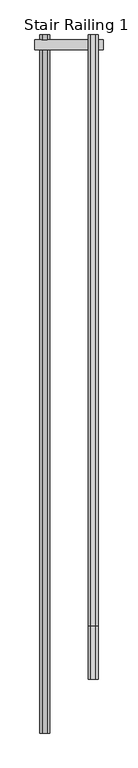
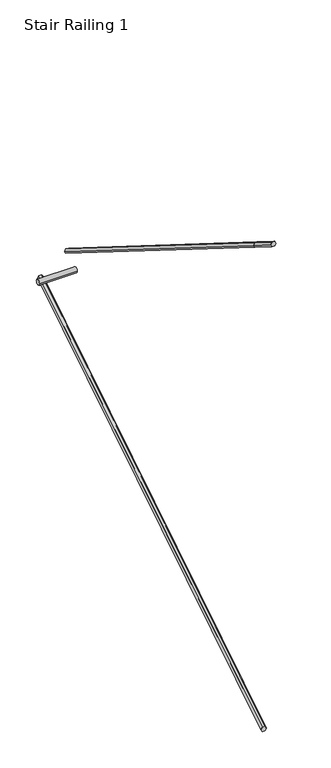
"""IFC4 building model written with IfcOpenShell, lengths in millimetres: railing geometry, Stair Railing 1."""

from ifc_helpers import new_model, si_unit, frame, origin, place, context, project, spatial, circle_curve, faceted_brep, source, transform, mapped, element, save
from ifc_brep_helpers import plane_surface, cylinder_surface, advanced_brep


def stair_railing_1_335de554(model_context):
    return source(origin(), model_context, "Body", "SolidModel", [
        faceted_brep([(-1415.3134126, 56357.2066802, 13752.6888889), (-1428.0134126, 56357.2066802, 13730.6918436), (-1453.4134126, 56357.2066802, 13730.6918436), (-1466.1134126, 56357.2066802, 13752.6888889), (-1453.4134126, 56357.2066802, 13774.6859341), (-1428.0134126, 56357.2066802, 13774.6859341), (-1415.3134126, 52725.0066802, 11477.9777778), (-1428.0134126, 52725.0066802, 11499.974823), (-1453.4134126, 52725.0066802, 11499.974823), (-1466.1134126, 52725.0066802, 11477.9777778), (-1453.4134126, 52725.0066802, 11455.9807325), (-1428.0134126, 52725.0066802, 11455.9807325)], [[[0, 1, 2, 3, 4, 5]], [[6, 7, 8, 9, 10, 11]], [[1, 0, 6, 11]], [[2, 1, 11, 10]], [[3, 2, 10, 9]], [[4, 3, 9, 8]], [[5, 4, 8, 7]], [[0, 5, 7, 6]]]),
        advanced_brep(
        [(-1136.9891104, 56281.0066802, 13752.6888889), (-1136.9891104, 56331.8066802, 13752.6888889), (-1491.5134126, 56281.0066802, 13752.6888889), (-1491.5134126, 56331.8066802, 13752.6888889)],
        [
            (0, 1, circle_curve(frame((-1136.9891104, 56306.4066802, 13752.6888889), z_axis=(1.0, 0.0, 0.0), x_axis=(0.0, -1.0, 0.0)), 25.4)),
            (1, 0, circle_curve(frame((-1136.9891104, 56306.4066802, 13752.6888889), z_axis=(1.0, 0.0, 0.0), x_axis=(0.0, -1.0, 0.0)), 25.4)),
            (2, 3, circle_curve(frame((-1491.5134126, 56306.4066802, 13752.6888889), z_axis=(-1.0, 0.0, 0.0), x_axis=(0.0, -1.0, 0.0)), 25.4)),
            (3, 2, circle_curve(frame((-1491.5134126, 56306.4066802, 13752.6888889), z_axis=(-1.0, 0.0, 0.0), x_axis=(0.0, -1.0, 0.0)), 25.4)),
            (0, 2),
            (3, 1),
        ],
        [
            plane_surface(frame((-1136.9891104, 56281.0066802, 13727.2888889), z_axis=(1.0, 0.0, 0.0), x_axis=(0.0, 1.0, 0.0))),
            plane_surface(frame((-1491.5134126, 56281.0066802, 13727.2888889), z_axis=(-1.0, 0.0, 0.0), x_axis=(0.0, -1.0, 0.0))),
            cylinder_surface(frame((-1491.5134126, 56306.4066802, 13752.6888889), z_axis=(1.0, 0.0, 0.0), x_axis=(0.0, -1.0, 0.0)), 25.4),
        ],
        [
            (0, [[1, 2]]),
            (1, [[3, 4]]),
            (2, [[-1, 5, -4, 6]]),
            (2, [[-2, -6, -3, -5]]),
        ],
    ),
        faceted_brep([(-1213.1891104, 53283.8066802, 15852.4222222), (-1200.4891104, 53283.8066802, 15830.425177), (-1175.0891104, 53283.8066802, 15830.425177), (-1162.3891104, 53283.8066802, 15852.4222222), (-1175.0891104, 53283.8066802, 15874.4192675), (-1200.4891104, 53283.8066802, 15874.4192675), (-1213.1891104, 56357.2066802, 13927.6666667), (-1200.4891104, 56357.2066802, 13949.6637119), (-1175.0891104, 56357.2066802, 13949.6637119), (-1162.3891104, 56357.2066802, 13927.6666667), (-1175.0891104, 56357.2066802, 13905.6696214), (-1200.4891104, 56357.2066802, 13905.6696214)], [[[0, 1, 2, 3, 4, 5]], [[6, 7, 8, 9, 10, 11]], [[1, 0, 6, 11]], [[2, 1, 11, 10]], [[3, 2, 10, 9]], [[4, 3, 9, 8]], [[5, 4, 8, 7]], [[0, 5, 7, 6]]]),
        faceted_brep([(-1213.1891104, 53004.4066802, 16027.4), (-1200.4891104, 53004.4066802, 16005.4029547), (-1175.0891104, 53004.4066802, 16005.4029547), (-1162.3891104, 53004.4066802, 16027.4), (-1175.0891104, 53004.4066802, 16049.3970453), (-1200.4891104, 53004.4066802, 16049.3970453), (-1213.1891104, 53283.8066802, 15852.4222222), (-1200.4891104, 53283.8066802, 15874.4192675), (-1175.0891104, 53283.8066802, 15874.4192675), (-1162.3891104, 53283.8066802, 15852.4222222), (-1175.0891104, 53283.8066802, 15830.425177), (-1200.4891104, 53283.8066802, 15830.425177)], [[[0, 1, 2, 3, 4, 5]], [[6, 7, 8, 9, 10, 11]], [[1, 0, 6, 11]], [[2, 1, 11, 10]], [[3, 2, 10, 9]], [[4, 3, 9, 8]], [[5, 4, 8, 7]], [[0, 5, 7, 6]]]),
    ])


if __name__ == "__main__":
    model = new_model("IFC4")
    model_context = context("Model", 3, world=origin())
    ifc_project = project(units=[si_unit("LENGTHUNIT", "METRE", prefix="MILLI")], contexts=[model_context])
    site = spatial("IfcSite", under=ifc_project)
    building = spatial("IfcBuilding", under=site)
    placement = place(None, origin())
    stair_railing_1_shape = stair_railing_1_335de554(model_context)
    element("IfcRailing", 1, ObjectType="Stair Railing 1", at=placement, inside=building, context=model_context, shape_type="MappedRepresentation", body=[
        mapped(stair_railing_1_shape, transform((0.0, 0.0, 0.0), x_axis=(1.0, 0.0, 0.0), y_axis=(0.0, 1.0, 0.0), z_axis=(0.0, 0.0, 1.0))),
    ])
    save(model, "model.ifc")
